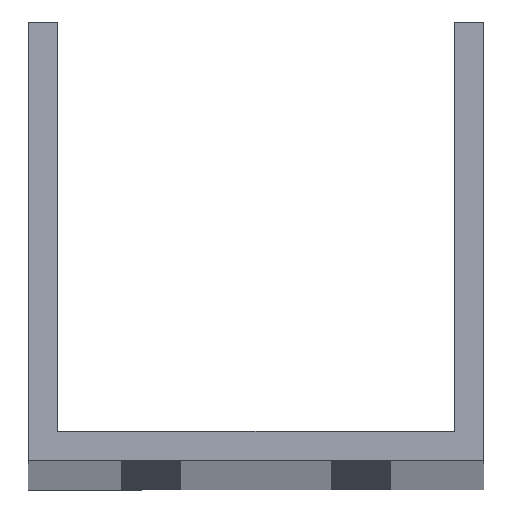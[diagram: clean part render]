
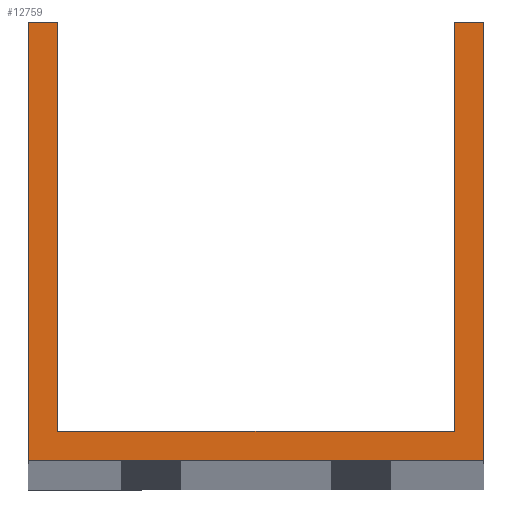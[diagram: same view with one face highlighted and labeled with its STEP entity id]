
A CAD part, top view. The second image highlights one B-rep face of the part: STEP entity #12759.
In plain terms, the highlighted planar face has unit normal (0, 0, 1).
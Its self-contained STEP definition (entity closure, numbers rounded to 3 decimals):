
#291 = VERTEX_POINT ( 'NONE', #23799 ) ;
#420 = CARTESIAN_POINT ( 'NONE',  ( -23.5, 3.5, 1000. ) ) ;
#779 = EDGE_CURVE ( 'NONE', #291, #8951, #2485, .T. ) ;
#1532 = CARTESIAN_POINT ( 'NONE',  ( -27., 52., 1000. ) ) ;
#1704 = VERTEX_POINT ( 'NONE', #10116 ) ;
#2347 = DIRECTION ( 'NONE',  ( 1., 0., 0. ) ) ;
#2485 = LINE ( 'NONE', #23044, #15312 ) ;
#2894 = AXIS2_PLACEMENT_3D ( 'NONE', #3761, #20045, #9285 ) ;
#3506 = VECTOR ( 'NONE', #21626, 1000. ) ;
#3755 = CARTESIAN_POINT ( 'NONE',  ( -27., 0., 1000. ) ) ;
#3761 = CARTESIAN_POINT ( 'NONE',  ( 0., 0., 1000. ) ) ;
#4559 = DIRECTION ( 'NONE',  ( 0., -1., 0. ) ) ;
#4920 = VERTEX_POINT ( 'NONE', #23382 ) ;
#5251 = ORIENTED_EDGE ( 'NONE', *, *, #19132, .T. ) ;
#5718 = ORIENTED_EDGE ( 'NONE', *, *, #14231, .T. ) ;
#5788 = DIRECTION ( 'NONE',  ( 0., -1., 0. ) ) ;
#5888 = LINE ( 'NONE', #13635, #21083 ) ;
#6134 = EDGE_LOOP ( 'NONE', ( #21346, #5251, #5718, #19360, #21671, #23132, #24163, #11249 ) ) ;
#6942 = EDGE_CURVE ( 'NONE', #6990, #17087, #5888, .T. ) ;
#6944 = LINE ( 'NONE', #23370, #3506 ) ;
#6990 = VERTEX_POINT ( 'NONE', #3755 ) ;
#8158 = VERTEX_POINT ( 'NONE', #23409 ) ;
#8560 = CARTESIAN_POINT ( 'NONE',  ( -23.5, 52., 1000. ) ) ;
#8951 = VERTEX_POINT ( 'NONE', #12207 ) ;
#9022 = LINE ( 'NONE', #25316, #23914 ) ;
#9285 = DIRECTION ( 'NONE',  ( 1., 0., 0. ) ) ;
#10116 = CARTESIAN_POINT ( 'NONE',  ( -23.5, 52., 1000. ) ) ;
#10138 = EDGE_CURVE ( 'NONE', #1704, #10178, #16708, .T. ) ;
#10178 = VERTEX_POINT ( 'NONE', #420 ) ;
#11249 = ORIENTED_EDGE ( 'NONE', *, *, #15802, .F. ) ;
#11263 = EDGE_CURVE ( 'NONE', #4920, #8951, #21941, .T. ) ;
#11623 = EDGE_CURVE ( 'NONE', #17087, #4920, #12161, .T. ) ;
#12161 = LINE ( 'NONE', #24180, #17769 ) ;
#12178 = VECTOR ( 'NONE', #4559, 1000. ) ;
#12207 = CARTESIAN_POINT ( 'NONE',  ( 23.5, 52., 1000. ) ) ;
#12759 = ADVANCED_FACE ( 'NONE', ( #19915 ), #14290, .T. ) ;
#13635 = CARTESIAN_POINT ( 'NONE',  ( -27., 0., 1000. ) ) ;
#14063 = LINE ( 'NONE', #1532, #19595 ) ;
#14231 = EDGE_CURVE ( 'NONE', #8158, #6990, #14063, .T. ) ;
#14290 = PLANE ( 'NONE',  #2894 ) ;
#14484 = DIRECTION ( 'NONE',  ( 0., 1., 0. ) ) ;
#15312 = VECTOR ( 'NONE', #14484, 1000. ) ;
#15802 = EDGE_CURVE ( 'NONE', #10178, #291, #9022, .T. ) ;
#16192 = DIRECTION ( 'NONE',  ( -1., 0., 0. ) ) ;
#16708 = LINE ( 'NONE', #8560, #12178 ) ;
#17087 = VERTEX_POINT ( 'NONE', #21159 ) ;
#17769 = VECTOR ( 'NONE', #26312, 1000. ) ;
#19132 = EDGE_CURVE ( 'NONE', #1704, #8158, #6944, .T. ) ;
#19360 = ORIENTED_EDGE ( 'NONE', *, *, #6942, .T. ) ;
#19595 = VECTOR ( 'NONE', #5788, 1000. ) ;
#19915 = FACE_OUTER_BOUND ( 'NONE', #6134, .T. ) ;
#20045 = DIRECTION ( 'NONE',  ( 0., 0., 1. ) ) ;
#21083 = VECTOR ( 'NONE', #25798, 1000. ) ;
#21159 = CARTESIAN_POINT ( 'NONE',  ( 27., 0., 1000. ) ) ;
#21346 = ORIENTED_EDGE ( 'NONE', *, *, #10138, .F. ) ;
#21626 = DIRECTION ( 'NONE',  ( -1., 0., 0. ) ) ;
#21671 = ORIENTED_EDGE ( 'NONE', *, *, #11623, .T. ) ;
#21941 = LINE ( 'NONE', #25955, #24179 ) ;
#23044 = CARTESIAN_POINT ( 'NONE',  ( 23.5, 52., 1000. ) ) ;
#23132 = ORIENTED_EDGE ( 'NONE', *, *, #11263, .T. ) ;
#23370 = CARTESIAN_POINT ( 'NONE',  ( -27., 52., 1000. ) ) ;
#23382 = CARTESIAN_POINT ( 'NONE',  ( 27., 52., 1000. ) ) ;
#23409 = CARTESIAN_POINT ( 'NONE',  ( -27., 52., 1000. ) ) ;
#23799 = CARTESIAN_POINT ( 'NONE',  ( 23.5, 3.5, 1000. ) ) ;
#23914 = VECTOR ( 'NONE', #2347, 1000. ) ;
#24163 = ORIENTED_EDGE ( 'NONE', *, *, #779, .F. ) ;
#24179 = VECTOR ( 'NONE', #16192, 1000. ) ;
#24180 = CARTESIAN_POINT ( 'NONE',  ( 27., 52., 1000. ) ) ;
#25316 = CARTESIAN_POINT ( 'NONE',  ( -27., 3.5, 1000. ) ) ;
#25798 = DIRECTION ( 'NONE',  ( 1., 0., 0. ) ) ;
#25955 = CARTESIAN_POINT ( 'NONE',  ( -27., 52., 1000. ) ) ;
#26312 = DIRECTION ( 'NONE',  ( 0., 1., 0. ) ) ;
